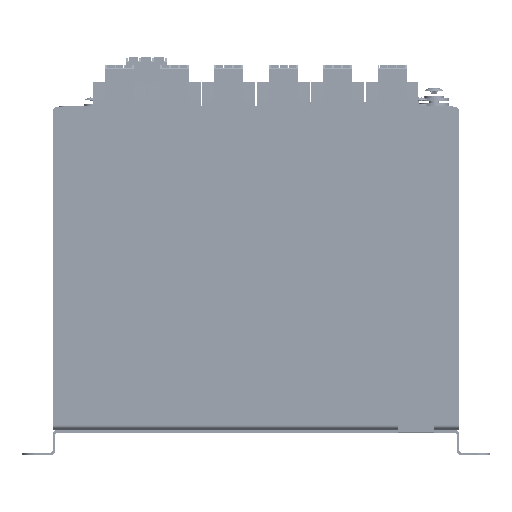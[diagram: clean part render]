
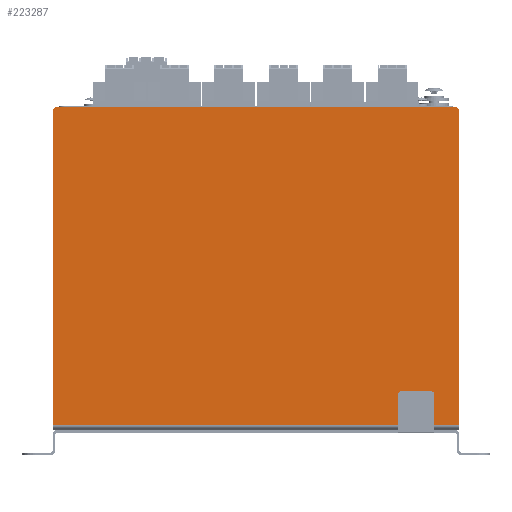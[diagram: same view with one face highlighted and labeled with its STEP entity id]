
A CAD part, left-side view. The second image highlights one B-rep face of the part: STEP entity #223287.
In plain terms, the highlighted planar face has unit normal (-1, 0, 0).
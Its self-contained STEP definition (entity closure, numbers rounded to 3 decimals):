
#4483=PLANE('',#234518);
#22349=FACE_OUTER_BOUND('',#33070,.T.);
#33070=EDGE_LOOP('',(#158355,#158356,#158357,#158358,#158359,#158360,#158361,
#158362,#158363,#158364,#158365,#158366));
#45211=CIRCLE('',#234519,1.);
#45212=CIRCLE('',#234520,1.);
#45213=CIRCLE('',#234521,2.);
#45214=CIRCLE('',#234522,2.);
#53073=LINE('',#315794,#76662);
#53203=LINE('',#316258,#76792);
#53204=LINE('',#316262,#76793);
#53205=LINE('',#316266,#76794);
#53206=LINE('',#316268,#76795);
#53207=LINE('',#316270,#76796);
#53208=LINE('',#316275,#76797);
#53209=LINE('',#316276,#76798);
#76662=VECTOR('',#255157,10.);
#76792=VECTOR('',#255557,10.);
#76793=VECTOR('',#255560,10.);
#76794=VECTOR('',#255563,10.);
#76795=VECTOR('',#255564,10.);
#76796=VECTOR('',#255565,10.);
#76797=VECTOR('',#255570,10.);
#76798=VECTOR('',#255571,10.);
#100040=VERTEX_POINT('',#315790);
#100042=VERTEX_POINT('',#315793);
#100240=VERTEX_POINT('',#316256);
#100241=VERTEX_POINT('',#316257);
#100242=VERTEX_POINT('',#316259);
#100243=VERTEX_POINT('',#316261);
#100244=VERTEX_POINT('',#316263);
#100245=VERTEX_POINT('',#316265);
#100246=VERTEX_POINT('',#316267);
#100247=VERTEX_POINT('',#316269);
#100248=VERTEX_POINT('',#316272);
#100249=VERTEX_POINT('',#316274);
#122674=EDGE_CURVE('',#100040,#100042,#53073,.T.);
#122900=EDGE_CURVE('',#100240,#100241,#53203,.T.);
#122901=EDGE_CURVE('',#100242,#100240,#45211,.T.);
#122902=EDGE_CURVE('',#100243,#100242,#53204,.T.);
#122903=EDGE_CURVE('',#100244,#100243,#45212,.T.);
#122904=EDGE_CURVE('',#100245,#100244,#53205,.T.);
#122905=EDGE_CURVE('',#100245,#100246,#53206,.T.);
#122906=EDGE_CURVE('',#100247,#100246,#53207,.T.);
#122907=EDGE_CURVE('',#100042,#100247,#45213,.T.);
#122908=EDGE_CURVE('',#100248,#100040,#45214,.T.);
#122909=EDGE_CURVE('',#100249,#100248,#53208,.T.);
#122910=EDGE_CURVE('',#100249,#100241,#53209,.T.);
#158355=ORIENTED_EDGE('',*,*,#122900,.F.);
#158356=ORIENTED_EDGE('',*,*,#122901,.F.);
#158357=ORIENTED_EDGE('',*,*,#122902,.F.);
#158358=ORIENTED_EDGE('',*,*,#122903,.F.);
#158359=ORIENTED_EDGE('',*,*,#122904,.F.);
#158360=ORIENTED_EDGE('',*,*,#122905,.T.);
#158361=ORIENTED_EDGE('',*,*,#122906,.F.);
#158362=ORIENTED_EDGE('',*,*,#122907,.F.);
#158363=ORIENTED_EDGE('',*,*,#122674,.F.);
#158364=ORIENTED_EDGE('',*,*,#122908,.F.);
#158365=ORIENTED_EDGE('',*,*,#122909,.F.);
#158366=ORIENTED_EDGE('',*,*,#122910,.T.);
#223287=ADVANCED_FACE('',(#22349),#4483,.T.);
#234518=AXIS2_PLACEMENT_3D('',#316255,#255555,#255556);
#234519=AXIS2_PLACEMENT_3D('',#316260,#255558,#255559);
#234520=AXIS2_PLACEMENT_3D('',#316264,#255561,#255562);
#234521=AXIS2_PLACEMENT_3D('',#316271,#255566,#255567);
#234522=AXIS2_PLACEMENT_3D('',#316273,#255568,#255569);
#255157=DIRECTION('',(0.,-1.,0.));
#255555=DIRECTION('center_axis',(-1.,0.,0.));
#255556=DIRECTION('ref_axis',(0.,-1.,0.));
#255557=DIRECTION('',(0.,0.,-1.));
#255558=DIRECTION('center_axis',(-1.,0.,0.));
#255559=DIRECTION('ref_axis',(0.,0.707,0.707));
#255560=DIRECTION('',(0.,1.,0.));
#255561=DIRECTION('center_axis',(-1.,0.,0.));
#255562=DIRECTION('ref_axis',(0.,-0.707,0.707));
#255563=DIRECTION('',(0.,0.,1.));
#255564=DIRECTION('',(0.,-1.,0.));
#255565=DIRECTION('',(0.,0.,-1.));
#255566=DIRECTION('center_axis',(1.,0.,0.));
#255567=DIRECTION('ref_axis',(0.,-0.707,
0.707));
#255568=DIRECTION('center_axis',(1.,0.,0.));
#255569=DIRECTION('ref_axis',(0.,0.707,0.707));
#255570=DIRECTION('',(0.,0.,1.));
#255571=DIRECTION('',(0.,-1.,0.));
#315790=CARTESIAN_POINT('',(-51.,78.,81.));
#315793=CARTESIAN_POINT('',(-51.,-78.,81.));
#315794=CARTESIAN_POINT('',(-51.,-80.,81.));
#316255=CARTESIAN_POINT('Origin',(-51.,0.,17.5));
#316256=CARTESIAN_POINT('',(-51.,-56.,-31.8));
#316257=CARTESIAN_POINT('',(-51.,-56.,-44.));
#316258=CARTESIAN_POINT('',(-51.,-56.,-30.8));
#316259=CARTESIAN_POINT('',(-51.,-57.,-30.8));
#316260=CARTESIAN_POINT('Origin',(-51.,-57.,-31.8));
#316261=CARTESIAN_POINT('',(-51.,-69.,-30.8));
#316262=CARTESIAN_POINT('',(-51.,-70.,-30.8));
#316263=CARTESIAN_POINT('',(-51.,-70.,-31.8));
#316264=CARTESIAN_POINT('Origin',(-51.,-69.,-31.8));
#316265=CARTESIAN_POINT('',(-51.,-70.,-44.));
#316266=CARTESIAN_POINT('',(-51.,-70.,-46.8));
#316267=CARTESIAN_POINT('',(-51.,-80.,-44.));
#316268=CARTESIAN_POINT('',(-51.,40.,-44.));
#316269=CARTESIAN_POINT('',(-51.,-80.,79.));
#316270=CARTESIAN_POINT('',(-51.,-80.,-46.));
#316271=CARTESIAN_POINT('Origin',(-51.,-78.,79.));
#316272=CARTESIAN_POINT('',(-51.,80.,79.));
#316273=CARTESIAN_POINT('Origin',(-51.,78.,79.));
#316274=CARTESIAN_POINT('',(-51.,80.,-44.));
#316275=CARTESIAN_POINT('',(-51.,80.,81.));
#316276=CARTESIAN_POINT('',(-51.,40.,-44.));
